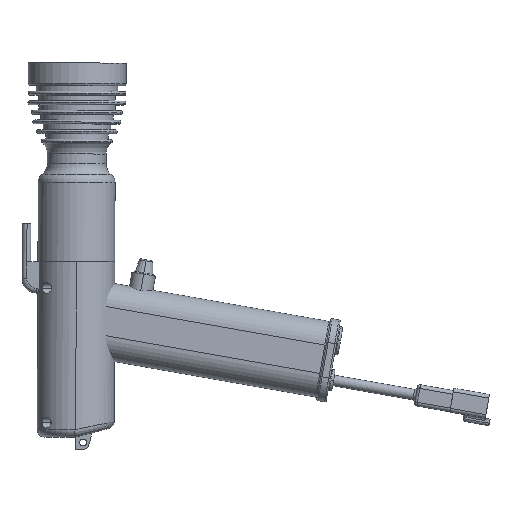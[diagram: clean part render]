
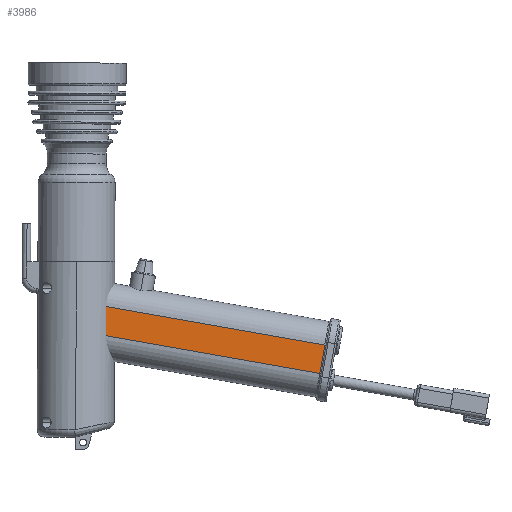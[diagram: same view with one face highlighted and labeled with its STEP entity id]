
A CAD part, left-side view. The second image highlights one B-rep face of the part: STEP entity #3986.
In plain terms, the highlighted planar face has unit normal (-1, 0, 0) as drawn and (0, 0, 1) by its records, which use the part's own axes.
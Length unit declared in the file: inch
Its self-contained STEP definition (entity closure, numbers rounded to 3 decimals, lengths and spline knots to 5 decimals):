
#506 = CARTESIAN_POINT ( 'NONE',  ( 1.16514, 0.23, -0.10722 ) ) ;
#507 = DIRECTION ( 'NONE',  ( 0., 1., 0. ) ) ;
#508 = VECTOR ( 'NONE', #507, 39.37008 ) ;
#509 = CARTESIAN_POINT ( 'NONE',  ( 1.16514, 4.95, -0.10722 ) ) ;
#510 = LINE ( 'NONE', #509, #508 ) ;
#526 = CARTESIAN_POINT ( 'NONE',  ( 1.16514, 4.95, -0.10722 ) ) ;
#816 = DIRECTION ( 'NONE',  ( -1., 0., 0. ) ) ;
#818 = DIRECTION ( 'NONE',  ( 0., 0., -1. ) ) ;
#820 = AXIS2_PLACEMENT_3D ( 'NONE', #825, #818, #816 ) ;
#825 = CARTESIAN_POINT ( 'NONE',  ( 0.06514, 4.95, -0.10722 ) ) ;
#827 = PLANE ( 'NONE',  #820 ) ;
#829 = FACE_OUTER_BOUND ( 'NONE', #3989, .T. ) ;
#954 = CARTESIAN_POINT ( 'NONE',  ( 0.56514, 0.23, -0.10722 ) ) ;
#957 = CARTESIAN_POINT ( 'NONE',  ( 0.56514, 4.95, -0.10722 ) ) ;
#959 = DIRECTION ( 'NONE',  ( 0., -1., 0. ) ) ;
#961 = VECTOR ( 'NONE', #959, 39.37008 ) ;
#963 = CARTESIAN_POINT ( 'NONE',  ( 0.56514, 4.95, -0.10722 ) ) ;
#964 = LINE ( 'NONE', #963, #961 ) ;
#1164 = DIRECTION ( 'NONE',  ( 1., 0., 0. ) ) ;
#1166 = VECTOR ( 'NONE', #1164, 39.37008 ) ;
#1168 = CARTESIAN_POINT ( 'NONE',  ( 0.06514, 4.95, -0.10722 ) ) ;
#1170 = LINE ( 'NONE', #1168, #1166 ) ;
#1173 = DIRECTION ( 'NONE',  ( 1., 0., 0. ) ) ;
#1174 = VECTOR ( 'NONE', #1173, 39.37008 ) ;
#1176 = CARTESIAN_POINT ( 'NONE',  ( 1.16514, 0.23, -0.10722 ) ) ;
#1178 = LINE ( 'NONE', #1176, #1174 ) ;
#3740 = EDGE_CURVE ( 'NONE', #3742, #3782, #510, .T. ) ;
#3742 = VERTEX_POINT ( 'NONE', #506 ) ;
#3782 = VERTEX_POINT ( 'NONE', #526 ) ;
#3986 = ADVANCED_FACE ( 'NONE', ( #829 ), #827, .F. ) ;
#3989 = EDGE_LOOP ( 'NONE', ( #3992, #3998, #4094, #4095 ) ) ;
#3992 = ORIENTED_EDGE ( 'NONE', *, *, #3994, .T. ) ;
#3994 = EDGE_CURVE ( 'NONE', #3996, #3997, #964, .T. ) ;
#3996 = VERTEX_POINT ( 'NONE', #957 ) ;
#3997 = VERTEX_POINT ( 'NONE', #954 ) ;
#3998 = ORIENTED_EDGE ( 'NONE', *, *, #4093, .T. ) ;
#4093 = EDGE_CURVE ( 'NONE', #3997, #3742, #1178, .T. ) ;
#4094 = ORIENTED_EDGE ( 'NONE', *, *, #3740, .T. ) ;
#4095 = ORIENTED_EDGE ( 'NONE', *, *, #4096, .F. ) ;
#4096 = EDGE_CURVE ( 'NONE', #3996, #3782, #1170, .T. ) ;
